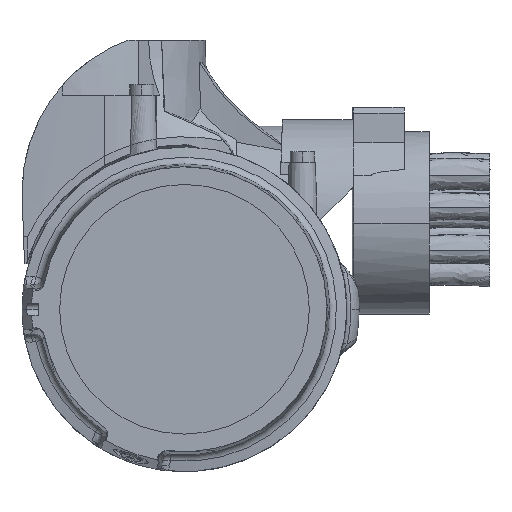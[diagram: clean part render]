
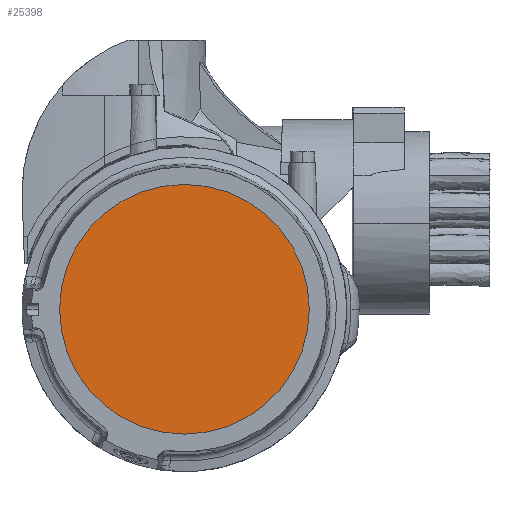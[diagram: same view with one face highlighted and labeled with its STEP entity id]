
A CAD part, left-side view. The second image highlights one B-rep face of the part: STEP entity #25398.
In plain terms, the highlighted planar face has unit normal (-1, 0, 0).
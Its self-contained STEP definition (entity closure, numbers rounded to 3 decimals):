
#287 = EDGE_CURVE ( 'NONE', #6194, #14276, #4155, .T. ) ;
#472 = ORIENTED_EDGE ( 'NONE', *, *, #8273, .F. ) ;
#1533 = DIRECTION ( 'NONE',  ( 0., 0., 1. ) ) ;
#1704 = PLANE ( 'NONE',  #33047 ) ;
#3967 = CARTESIAN_POINT ( 'NONE',  ( 1469., 0., 1861.5 ) ) ;
#4155 = CIRCLE ( 'NONE', #33257, 61.5 ) ;
#6194 = VERTEX_POINT ( 'NONE', #3967 ) ;
#8273 = EDGE_CURVE ( 'NONE', #14276, #6194, #31373, .T. ) ;
#10292 = DIRECTION ( 'NONE',  ( -1., 0., 0. ) ) ;
#10887 = DIRECTION ( 'NONE',  ( 1., 0., 0. ) ) ;
#12377 = DIRECTION ( 'NONE',  ( 1., 0., 0. ) ) ;
#14276 = VERTEX_POINT ( 'NONE', #32619 ) ;
#19524 = ORIENTED_EDGE ( 'NONE', *, *, #287, .F. ) ;
#25398 = ADVANCED_FACE ( 'NONE', ( #29038 ), #1704, .T. ) ;
#28550 = AXIS2_PLACEMENT_3D ( 'NONE', #41168, #10887, #31380 ) ;
#29038 = FACE_OUTER_BOUND ( 'NONE', #38054, .T. ) ;
#31373 = CIRCLE ( 'NONE', #28550, 61.5 ) ;
#31380 = DIRECTION ( 'NONE',  ( 0., 0., 1. ) ) ;
#32619 = CARTESIAN_POINT ( 'NONE',  ( 1469., 0., 1738.5 ) ) ;
#32636 = CARTESIAN_POINT ( 'NONE',  ( 1469., 0., 1800. ) ) ;
#33047 = AXIS2_PLACEMENT_3D ( 'NONE', #33670, #10292, #33458 ) ;
#33257 = AXIS2_PLACEMENT_3D ( 'NONE', #32636, #12377, #1533 ) ;
#33458 = DIRECTION ( 'NONE',  ( 0., -1., 0. ) ) ;
#33670 = CARTESIAN_POINT ( 'NONE',  ( 1469., 13.5, 1800. ) ) ;
#38054 = EDGE_LOOP ( 'NONE', ( #19524, #472 ) ) ;
#41168 = CARTESIAN_POINT ( 'NONE',  ( 1469., 0., 1800. ) ) ;
